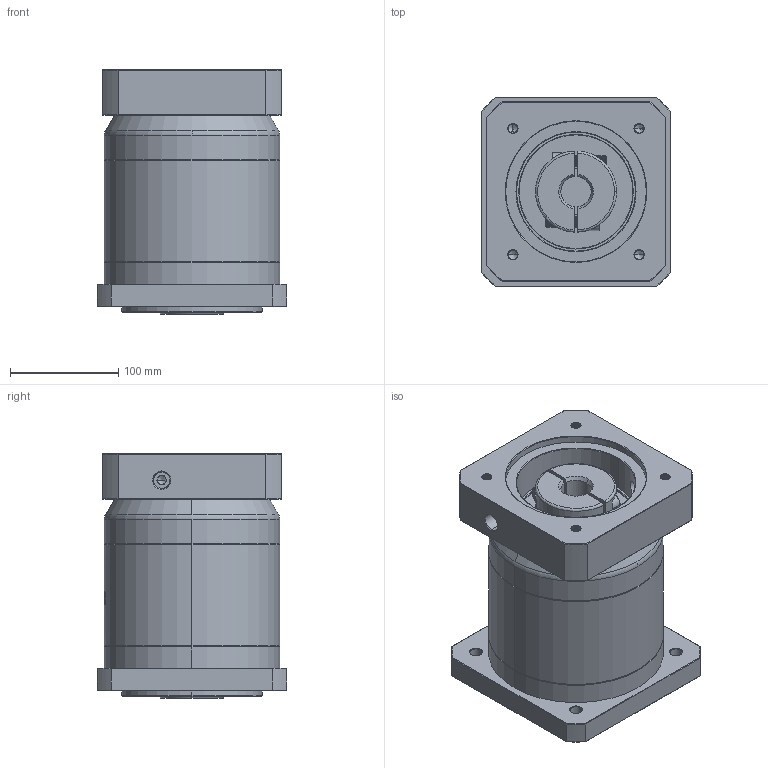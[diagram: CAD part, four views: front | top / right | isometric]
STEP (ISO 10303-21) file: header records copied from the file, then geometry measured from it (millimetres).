
FILE_DESCRIPTION (( 'STEP AP214' ), '1' );
FILE_NAME ('ZF160A-K35-L2-P2-28-130-165-M10.step', '2023-09-03T07:02:32', ( '' ), ( '' ), 'SwSTEP 2.0', 'SolidWorks 2016', '' );
FILE_SCHEMA (( 'AUTOMOTIVE_DESIGN' ));
Length unit declared in the file: millimetre
Products named in the file (1): ZF160A-K35-L2-P2-28-130-165-M10
Bounding box: 175 x 175 x 226.2 mm (x, y, z)
Volume: 4556844.8 mm3; surface area: 340140.6 mm2
Topology: 6 solids, 6 shells, 2146 faces, 5806 edges, 3767 vertices
Faces by surface type: plane 1009, bspline 404, cylinder 392, cone 319, torus 22
Entity records: 118943 total; most frequent: CARTESIAN_POINT 46293, ORIENTED_EDGE 11556, DIRECTION 8458, EDGE_CURVE 5778, VERTEX_POINT 3767, VECTOR 3010, LINE 3010, AXIS2_PLACEMENT_3D 2724
